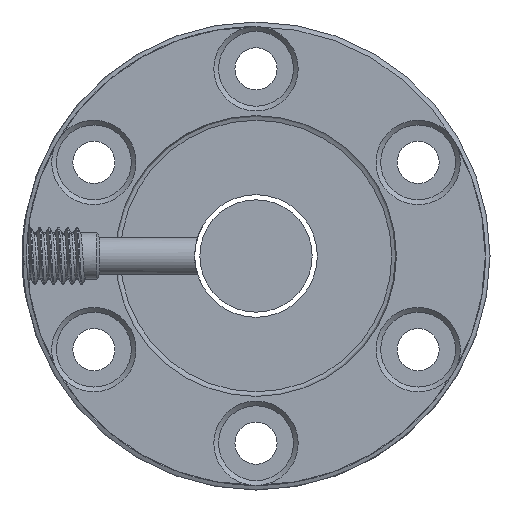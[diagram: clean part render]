
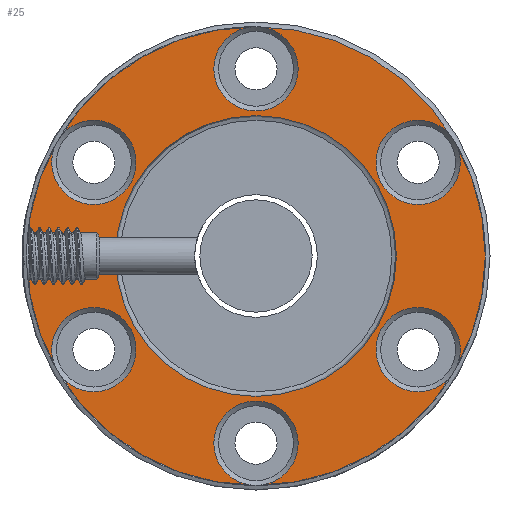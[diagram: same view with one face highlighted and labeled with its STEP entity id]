
A CAD part, left-side view. The second image highlights one B-rep face of the part: STEP entity #25.
In plain terms, the highlighted planar face has unit normal (1, 0, 0).
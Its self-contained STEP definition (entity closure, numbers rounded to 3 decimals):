
#6 = FACE_BOUND ( 'NONE', #195, .T. ) ;
#12 = CARTESIAN_POINT ( 'NONE',  ( -32., 17.321, -7.25 ) ) ;
#22 = DIRECTION ( 'NONE',  ( 0., 0., 1. ) ) ;
#25 = ADVANCED_FACE ( 'NONE', ( #2777, #6, #687, #201, #2547, #458, #2319, #231 ), #1850, .F. ) ;
#88 = EDGE_CURVE ( 'NONE', #1909, #1909, #1291, .T. ) ;
#115 = EDGE_LOOP ( 'NONE', ( #2980 ) ) ;
#119 = DIRECTION ( 'NONE',  ( 0., 0., 1. ) ) ;
#164 = CARTESIAN_POINT ( 'NONE',  ( -32., 17.321, 12.75 ) ) ;
#195 = EDGE_LOOP ( 'NONE', ( #812 ) ) ;
#201 = FACE_BOUND ( 'NONE', #2580, .T. ) ;
#218 = DIRECTION ( 'NONE',  ( 1., 0., 0. ) ) ;
#231 = FACE_BOUND ( 'NONE', #115, .T. ) ;
#279 = DIRECTION ( 'NONE',  ( -1., 0., 0. ) ) ;
#313 = AXIS2_PLACEMENT_3D ( 'NONE', #2793, #701, #22 ) ;
#324 = EDGE_CURVE ( 'NONE', #547, #547, #2213, .T. ) ;
#338 = ORIENTED_EDGE ( 'NONE', *, *, #1508, .T. ) ;
#378 = VERTEX_POINT ( 'NONE', #1502 ) ;
#403 = DIRECTION ( 'NONE',  ( 0., 0., 1. ) ) ;
#458 = FACE_BOUND ( 'NONE', #2488, .T. ) ;
#500 = DIRECTION ( 'NONE',  ( 0., 0., 1. ) ) ;
#524 = DIRECTION ( 'NONE',  ( -1., 0., 0. ) ) ;
#547 = VERTEX_POINT ( 'NONE', #164 ) ;
#601 = ORIENTED_EDGE ( 'NONE', *, *, #2658, .T. ) ;
#607 = AXIS2_PLACEMENT_3D ( 'NONE', #2175, #1976, #403 ) ;
#610 = CARTESIAN_POINT ( 'NONE',  ( -32., -17.321, 12.75 ) ) ;
#672 = DIRECTION ( 'NONE',  ( 0., 0., -1. ) ) ;
#687 = FACE_BOUND ( 'NONE', #710, .T. ) ;
#701 = DIRECTION ( 'NONE',  ( -1., 0., 0. ) ) ;
#710 = EDGE_LOOP ( 'NONE', ( #948 ) ) ;
#727 = ORIENTED_EDGE ( 'NONE', *, *, #324, .T. ) ;
#803 = AXIS2_PLACEMENT_3D ( 'NONE', #935, #524, #2111 ) ;
#804 = CIRCLE ( 'NONE', #2797, 15. ) ;
#812 = ORIENTED_EDGE ( 'NONE', *, *, #1694, .T. ) ;
#850 = CARTESIAN_POINT ( 'NONE',  ( -32., 0., 24.5 ) ) ;
#857 = EDGE_CURVE ( 'NONE', #378, #378, #804, .T. ) ;
#935 = CARTESIAN_POINT ( 'NONE',  ( -32., 17.321, 10. ) ) ;
#948 = ORIENTED_EDGE ( 'NONE', *, *, #1955, .T. ) ;
#965 = ORIENTED_EDGE ( 'NONE', *, *, #1632, .T. ) ;
#971 = DIRECTION ( 'NONE',  ( -1., 0., 0. ) ) ;
#1123 = CIRCLE ( 'NONE', #2834, 2.75 ) ;
#1169 = VERTEX_POINT ( 'NONE', #12 ) ;
#1272 = AXIS2_PLACEMENT_3D ( 'NONE', #2189, #2453, #2404 ) ;
#1291 = CIRCLE ( 'NONE', #607, 2.75 ) ;
#1376 = AXIS2_PLACEMENT_3D ( 'NONE', #2620, #1728, #1905 ) ;
#1430 = CIRCLE ( 'NONE', #2305, 2.75 ) ;
#1441 = CARTESIAN_POINT ( 'NONE',  ( -32., 0., -20. ) ) ;
#1502 = CARTESIAN_POINT ( 'NONE',  ( -32., 0., -15. ) ) ;
#1508 = EDGE_CURVE ( 'NONE', #1961, #1961, #1430, .T. ) ;
#1632 = EDGE_CURVE ( 'NONE', #2222, #2222, #2019, .T. ) ;
#1694 = EDGE_CURVE ( 'NONE', #2937, #2937, #2551, .T. ) ;
#1728 = DIRECTION ( 'NONE',  ( 1., 0., 0. ) ) ;
#1732 = CARTESIAN_POINT ( 'NONE',  ( -32., -17.321, -7.25 ) ) ;
#1805 = EDGE_LOOP ( 'NONE', ( #727 ) ) ;
#1850 = PLANE ( 'NONE',  #313 ) ;
#1905 = DIRECTION ( 'NONE',  ( 0., 0., 1. ) ) ;
#1909 = VERTEX_POINT ( 'NONE', #2409 ) ;
#1955 = EDGE_CURVE ( 'NONE', #2209, #2209, #2691, .T. ) ;
#1961 = VERTEX_POINT ( 'NONE', #2922 ) ;
#1976 = DIRECTION ( 'NONE',  ( -1., 0., 0. ) ) ;
#2019 = CIRCLE ( 'NONE', #1376, 24.5 ) ;
#2057 = ORIENTED_EDGE ( 'NONE', *, *, #88, .T. ) ;
#2093 = CARTESIAN_POINT ( 'NONE',  ( -32., 0., 0. ) ) ;
#2111 = DIRECTION ( 'NONE',  ( 0., 0., 1. ) ) ;
#2175 = CARTESIAN_POINT ( 'NONE',  ( -32., 0., 20. ) ) ;
#2185 = CARTESIAN_POINT ( 'NONE',  ( -32., -17.321, 10. ) ) ;
#2189 = CARTESIAN_POINT ( 'NONE',  ( -32., -17.321, -10. ) ) ;
#2209 = VERTEX_POINT ( 'NONE', #610 ) ;
#2213 = CIRCLE ( 'NONE', #803, 2.75 ) ;
#2222 = VERTEX_POINT ( 'NONE', #850 ) ;
#2305 = AXIS2_PLACEMENT_3D ( 'NONE', #1441, #2379, #500 ) ;
#2319 = FACE_BOUND ( 'NONE', #2885, .T. ) ;
#2360 = CARTESIAN_POINT ( 'NONE',  ( -32., 17.321, -10. ) ) ;
#2376 = DIRECTION ( 'NONE',  ( 0., 0., 1. ) ) ;
#2379 = DIRECTION ( 'NONE',  ( -1., 0., 0. ) ) ;
#2404 = DIRECTION ( 'NONE',  ( 0., 0., 1. ) ) ;
#2409 = CARTESIAN_POINT ( 'NONE',  ( -32., 0., 22.75 ) ) ;
#2453 = DIRECTION ( 'NONE',  ( -1., 0., 0. ) ) ;
#2467 = EDGE_LOOP ( 'NONE', ( #965 ) ) ;
#2488 = EDGE_LOOP ( 'NONE', ( #601 ) ) ;
#2547 = FACE_BOUND ( 'NONE', #1805, .T. ) ;
#2551 = CIRCLE ( 'NONE', #1272, 2.75 ) ;
#2580 = EDGE_LOOP ( 'NONE', ( #2057 ) ) ;
#2620 = CARTESIAN_POINT ( 'NONE',  ( -32., 0., 0. ) ) ;
#2658 = EDGE_CURVE ( 'NONE', #1169, #1169, #1123, .T. ) ;
#2691 = CIRCLE ( 'NONE', #2832, 2.75 ) ;
#2777 = FACE_OUTER_BOUND ( 'NONE', #2467, .T. ) ;
#2793 = CARTESIAN_POINT ( 'NONE',  ( -32., 25., 0. ) ) ;
#2797 = AXIS2_PLACEMENT_3D ( 'NONE', #2093, #218, #672 ) ;
#2832 = AXIS2_PLACEMENT_3D ( 'NONE', #2185, #279, #119 ) ;
#2834 = AXIS2_PLACEMENT_3D ( 'NONE', #2360, #971, #2376 ) ;
#2885 = EDGE_LOOP ( 'NONE', ( #338 ) ) ;
#2922 = CARTESIAN_POINT ( 'NONE',  ( -32., 0., -17.25 ) ) ;
#2937 = VERTEX_POINT ( 'NONE', #1732 ) ;
#2980 = ORIENTED_EDGE ( 'NONE', *, *, #857, .F. ) ;
